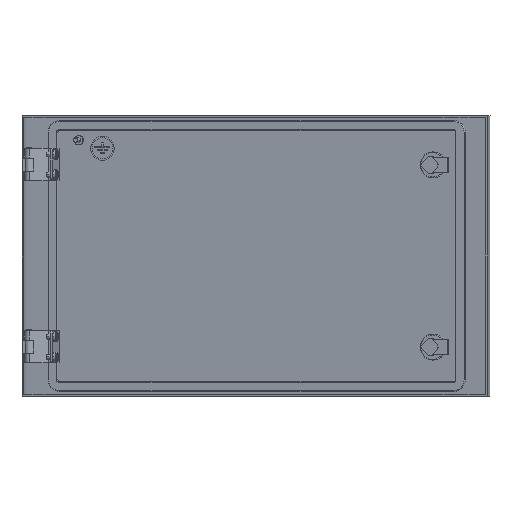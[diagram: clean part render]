
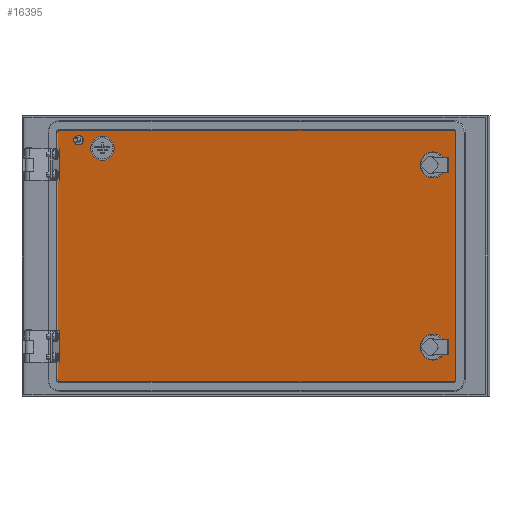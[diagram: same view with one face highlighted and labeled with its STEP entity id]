
A CAD part, left-side view. The second image highlights one B-rep face of the part: STEP entity #16395.
In plain terms, the highlighted planar face has unit normal (-0.966, 0.259, 0).
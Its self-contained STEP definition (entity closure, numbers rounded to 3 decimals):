
#44 = DIRECTION ( 'NONE',  ( 0.259, 0.966, 0. ) ) ;
#163 = CARTESIAN_POINT ( 'NONE',  ( -146.539, -533.058, -87.5 ) ) ;
#233 = CARTESIAN_POINT ( 'NONE',  ( -153.521, -559.14, 180. ) ) ;
#240 = DIRECTION ( 'NONE',  ( -0.966, 0.259, 0. ) ) ;
#261 = CARTESIAN_POINT ( 'NONE',  ( -22.94, -71.314, -130. ) ) ;
#310 = CARTESIAN_POINT ( 'NONE',  ( -22.422, -69.382, 25. ) ) ;
#588 = EDGE_LOOP ( 'NONE', ( #19454, #1824 ) ) ;
#903 = DIRECTION ( 'NONE',  ( 0.259, 0.966, 0. ) ) ;
#1065 = EDGE_CURVE ( 'NONE', #11069, #7881, #14042, .T. ) ;
#1216 = ORIENTED_EDGE ( 'NONE', *, *, #8128, .F. ) ;
#1240 = VERTEX_POINT ( 'NONE', #18298 ) ;
#1365 = CARTESIAN_POINT ( 'NONE',  ( -22.422, -69.382, 178. ) ) ;
#1442 = AXIS2_PLACEMENT_3D ( 'NONE', #9162, #12386, #18497 ) ;
#1445 = CIRCLE ( 'NONE', #1787, 16. ) ;
#1483 = ORIENTED_EDGE ( 'NONE', *, *, #1065, .F. ) ;
#1690 = EDGE_CURVE ( 'NONE', #16016, #2200, #16364, .T. ) ;
#1787 = AXIS2_PLACEMENT_3D ( 'NONE', #6451, #17881, #19151 ) ;
#1824 = ORIENTED_EDGE ( 'NONE', *, *, #5866, .F. ) ;
#2200 = VERTEX_POINT ( 'NONE', #233 ) ;
#2398 = VECTOR ( 'NONE', #11659, 1000. ) ;
#2534 = CARTESIAN_POINT ( 'NONE',  ( -41.04, -138.934, 158. ) ) ;
#2570 = CARTESIAN_POINT ( 'NONE',  ( -29.404, -95.464, 168. ) ) ;
#2774 = CIRCLE ( 'NONE', #8828, 16. ) ;
#2975 = CARTESIAN_POINT ( 'NONE',  ( -150.676, -548.514, -87.5 ) ) ;
#3003 = CARTESIAN_POINT ( 'NONE',  ( -30.067, -97.942, 167.334 ) ) ;
#3093 = CIRCLE ( 'NONE', #12461, 2. ) ;
#3171 = DIRECTION ( 'NONE',  ( 0.259, 0.966, 0. ) ) ;
#3296 = DIRECTION ( 'NONE',  ( -0.966, 0.259, 0. ) ) ;
#3416 = EDGE_CURVE ( 'NONE', #2200, #1240, #8247, .T. ) ;
#3456 = ORIENTED_EDGE ( 'NONE', *, *, #17576, .T. ) ;
#3572 = ORIENTED_EDGE ( 'NONE', *, *, #4385, .F. ) ;
#3727 = VERTEX_POINT ( 'NONE', #10552 ) ;
#3821 = CARTESIAN_POINT ( 'NONE',  ( -154.038, -561.072, 178. ) ) ;
#4307 = CARTESIAN_POINT ( 'NONE',  ( -105.426, -379.466, 1016.5 ) ) ;
#4385 = EDGE_CURVE ( 'NONE', #11545, #15761, #13965, .T. ) ;
#4591 = VECTOR ( 'NONE', #19894, 1000. ) ;
#4697 = EDGE_CURVE ( 'NONE', #5529, #17925, #18217, .T. ) ;
#4771 = AXIS2_PLACEMENT_3D ( 'NONE', #163, #3296, #19169 ) ;
#4777 = VERTEX_POINT ( 'NONE', #5926 ) ;
#4884 = CARTESIAN_POINT ( 'NONE',  ( -29.404, -95.464, 168. ) ) ;
#4971 = ORIENTED_EDGE ( 'NONE', *, *, #13836, .F. ) ;
#5032 = VECTOR ( 'NONE', #13008, 1000. ) ;
#5072 = DIRECTION ( 'NONE',  ( 0.259, 0.966, 0. ) ) ;
#5095 = DIRECTION ( 'NONE',  ( 0., 0., -1. ) ) ;
#5173 = FACE_OUTER_BOUND ( 'NONE', #20741, .T. ) ;
#5387 = CIRCLE ( 'NONE', #8431, 2.65 ) ;
#5389 = CIRCLE ( 'NONE', #9099, 2. ) ;
#5529 = VERTEX_POINT ( 'NONE', #261 ) ;
#5677 = FACE_BOUND ( 'NONE', #15927, .T. ) ;
#5866 = EDGE_CURVE ( 'NONE', #6733, #11704, #15521, .T. ) ;
#5889 = EDGE_CURVE ( 'NONE', #17457, #4777, #1445, .T. ) ;
#5918 = CARTESIAN_POINT ( 'NONE',  ( -22.94, -71.314, 180. ) ) ;
#5926 = CARTESIAN_POINT ( 'NONE',  ( -150.676, -548.514, 137.5 ) ) ;
#6451 = CARTESIAN_POINT ( 'NONE',  ( -146.539, -533.058, 137.5 ) ) ;
#6733 = VERTEX_POINT ( 'NONE', #2975 ) ;
#6855 = ORIENTED_EDGE ( 'NONE', *, *, #14838, .F. ) ;
#7510 = CARTESIAN_POINT ( 'NONE',  ( -153.521, -559.14, -128. ) ) ;
#7515 = CIRCLE ( 'NONE', #10862, 15. ) ;
#7524 = CARTESIAN_POINT ( 'NONE',  ( -22.94, -71.314, 178. ) ) ;
#7583 = FACE_BOUND ( 'NONE', #588, .T. ) ;
#7881 = VERTEX_POINT ( 'NONE', #3003 ) ;
#8128 = EDGE_CURVE ( 'NONE', #7881, #11069, #5387, .T. ) ;
#8247 = CIRCLE ( 'NONE', #15261, 2. ) ;
#8317 = ORIENTED_EDGE ( 'NONE', *, *, #3416, .F. ) ;
#8431 = AXIS2_PLACEMENT_3D ( 'NONE', #2570, #18643, #10352 ) ;
#8463 = CIRCLE ( 'NONE', #4771, 16. ) ;
#8594 = CARTESIAN_POINT ( 'NONE',  ( -142.402, -517.602, -87.5 ) ) ;
#8828 = AXIS2_PLACEMENT_3D ( 'NONE', #20488, #17233, #3171 ) ;
#9051 = VECTOR ( 'NONE', #5095, 1000. ) ;
#9099 = AXIS2_PLACEMENT_3D ( 'NONE', #7524, #13910, #20307 ) ;
#9159 = DIRECTION ( 'NONE',  ( 0.966, -0.259, 0. ) ) ;
#9162 = CARTESIAN_POINT ( 'NONE',  ( -22.94, -71.314, -128. ) ) ;
#10024 = LINE ( 'NONE', #3821, #9051 ) ;
#10148 = ORIENTED_EDGE ( 'NONE', *, *, #1690, .F. ) ;
#10352 = DIRECTION ( 'NONE',  ( 0.259, 0.966, 0. ) ) ;
#10414 = FACE_BOUND ( 'NONE', #20454, .T. ) ;
#10546 = DIRECTION ( 'NONE',  ( 0., 0., -1. ) ) ;
#10552 = CARTESIAN_POINT ( 'NONE',  ( -154.038, -561.072, -128. ) ) ;
#10779 = DIRECTION ( 'NONE',  ( 0.966, -0.259, 0. ) ) ;
#10852 = EDGE_CURVE ( 'NONE', #11704, #6733, #8463, .T. ) ;
#10862 = AXIS2_PLACEMENT_3D ( 'NONE', #16507, #14418, #5072 ) ;
#11069 = VERTEX_POINT ( 'NONE', #20296 ) ;
#11460 = LINE ( 'NONE', #310, #2398 ) ;
#11545 = VERTEX_POINT ( 'NONE', #2534 ) ;
#11659 = DIRECTION ( 'NONE',  ( 0., 0., 1. ) ) ;
#11704 = VERTEX_POINT ( 'NONE', #8594 ) ;
#11900 = ORIENTED_EDGE ( 'NONE', *, *, #17824, .F. ) ;
#12001 = ORIENTED_EDGE ( 'NONE', *, *, #12327, .F. ) ;
#12021 = EDGE_LOOP ( 'NONE', ( #6855, #3572 ) ) ;
#12112 = DIRECTION ( 'NONE',  ( -0.966, 0.259, 0. ) ) ;
#12249 = CARTESIAN_POINT ( 'NONE',  ( -37.161, -124.444, 158. ) ) ;
#12327 = EDGE_CURVE ( 'NONE', #17761, #16016, #5389, .T. ) ;
#12386 = DIRECTION ( 'NONE',  ( -0.966, 0.259, 0. ) ) ;
#12461 = AXIS2_PLACEMENT_3D ( 'NONE', #7510, #12112, #10546 ) ;
#12643 = DIRECTION ( 'NONE',  ( -0.966, 0.259, 0. ) ) ;
#12698 = AXIS2_PLACEMENT_3D ( 'NONE', #4884, #12643, #12748 ) ;
#12735 = CARTESIAN_POINT ( 'NONE',  ( -142.402, -517.602, 137.5 ) ) ;
#12748 = DIRECTION ( 'NONE',  ( 0.259, 0.966, 0. ) ) ;
#13008 = DIRECTION ( 'NONE',  ( -0.259, -0.966, 0. ) ) ;
#13836 = EDGE_CURVE ( 'NONE', #4777, #17457, #2774, .T. ) ;
#13910 = DIRECTION ( 'NONE',  ( 0.966, -0.259, 0. ) ) ;
#13924 = DIRECTION ( 'NONE',  ( 0., 0., 1. ) ) ;
#13965 = CIRCLE ( 'NONE', #20332, 15. ) ;
#13971 = DIRECTION ( 'NONE',  ( 0., 0., -1. ) ) ;
#14042 = CIRCLE ( 'NONE', #12698, 2.65 ) ;
#14168 = ORIENTED_EDGE ( 'NONE', *, *, #19569, .T. ) ;
#14418 = DIRECTION ( 'NONE',  ( -0.966, 0.259, 0. ) ) ;
#14838 = EDGE_CURVE ( 'NONE', #15761, #11545, #7515, .T. ) ;
#15186 = DIRECTION ( 'NONE',  ( -0.966, 0.259, 0. ) ) ;
#15261 = AXIS2_PLACEMENT_3D ( 'NONE', #18746, #10779, #13924 ) ;
#15272 = VERTEX_POINT ( 'NONE', #15619 ) ;
#15472 = CARTESIAN_POINT ( 'NONE',  ( -146.539, -533.058, -87.5 ) ) ;
#15521 = CIRCLE ( 'NONE', #15873, 16. ) ;
#15619 = CARTESIAN_POINT ( 'NONE',  ( -22.422, -69.382, -128. ) ) ;
#15761 = VERTEX_POINT ( 'NONE', #20635 ) ;
#15873 = AXIS2_PLACEMENT_3D ( 'NONE', #15472, #240, #44 ) ;
#15927 = EDGE_LOOP ( 'NONE', ( #1216, #1483 ) ) ;
#16016 = VERTEX_POINT ( 'NONE', #5918 ) ;
#16364 = LINE ( 'NONE', #16578, #5032 ) ;
#16395 = ADVANCED_FACE ( 'NONE', ( #5173, #10414, #7583, #5677, #16804 ), #16915, .F. ) ;
#16424 = CARTESIAN_POINT ( 'NONE',  ( -22.94, -71.314, -130. ) ) ;
#16507 = CARTESIAN_POINT ( 'NONE',  ( -37.161, -124.444, 158. ) ) ;
#16578 = CARTESIAN_POINT ( 'NONE',  ( -22.94, -71.314, 180. ) ) ;
#16758 = ORIENTED_EDGE ( 'NONE', *, *, #5889, .F. ) ;
#16804 = FACE_BOUND ( 'NONE', #12021, .T. ) ;
#16915 = PLANE ( 'NONE',  #18790 ) ;
#17233 = DIRECTION ( 'NONE',  ( -0.966, 0.259, 0. ) ) ;
#17457 = VERTEX_POINT ( 'NONE', #12735 ) ;
#17576 = EDGE_CURVE ( 'NONE', #15272, #5529, #19548, .T. ) ;
#17761 = VERTEX_POINT ( 'NONE', #1365 ) ;
#17824 = EDGE_CURVE ( 'NONE', #15272, #17761, #11460, .T. ) ;
#17881 = DIRECTION ( 'NONE',  ( -0.966, 0.259, 0. ) ) ;
#17925 = VERTEX_POINT ( 'NONE', #20255 ) ;
#18217 = LINE ( 'NONE', #16424, #4591 ) ;
#18298 = CARTESIAN_POINT ( 'NONE',  ( -154.038, -561.072, 178. ) ) ;
#18497 = DIRECTION ( 'NONE',  ( 0.259, 0.966, 0. ) ) ;
#18643 = DIRECTION ( 'NONE',  ( -0.966, 0.259, 0. ) ) ;
#18746 = CARTESIAN_POINT ( 'NONE',  ( -153.521, -559.14, 178. ) ) ;
#18790 = AXIS2_PLACEMENT_3D ( 'NONE', #4307, #9159, #13971 ) ;
#18966 = ORIENTED_EDGE ( 'NONE', *, *, #20502, .F. ) ;
#19151 = DIRECTION ( 'NONE',  ( 0.259, 0.966, 0. ) ) ;
#19169 = DIRECTION ( 'NONE',  ( 0.259, 0.966, 0. ) ) ;
#19454 = ORIENTED_EDGE ( 'NONE', *, *, #10852, .F. ) ;
#19548 = CIRCLE ( 'NONE', #1442, 2. ) ;
#19569 = EDGE_CURVE ( 'NONE', #17925, #3727, #3093, .T. ) ;
#19894 = DIRECTION ( 'NONE',  ( -0.259, -0.966, 0. ) ) ;
#19932 = ORIENTED_EDGE ( 'NONE', *, *, #4697, .T. ) ;
#20255 = CARTESIAN_POINT ( 'NONE',  ( -153.521, -559.14, -130. ) ) ;
#20296 = CARTESIAN_POINT ( 'NONE',  ( -28.741, -92.987, 168.666 ) ) ;
#20307 = DIRECTION ( 'NONE',  ( 0.259, 0.966, 0. ) ) ;
#20332 = AXIS2_PLACEMENT_3D ( 'NONE', #12249, #15186, #903 ) ;
#20454 = EDGE_LOOP ( 'NONE', ( #16758, #4971 ) ) ;
#20488 = CARTESIAN_POINT ( 'NONE',  ( -146.539, -533.058, 137.5 ) ) ;
#20502 = EDGE_CURVE ( 'NONE', #1240, #3727, #10024, .T. ) ;
#20635 = CARTESIAN_POINT ( 'NONE',  ( -33.283, -109.954, 158. ) ) ;
#20741 = EDGE_LOOP ( 'NONE', ( #11900, #3456, #19932, #14168, #18966, #8317, #10148, #12001 ) ) ;
